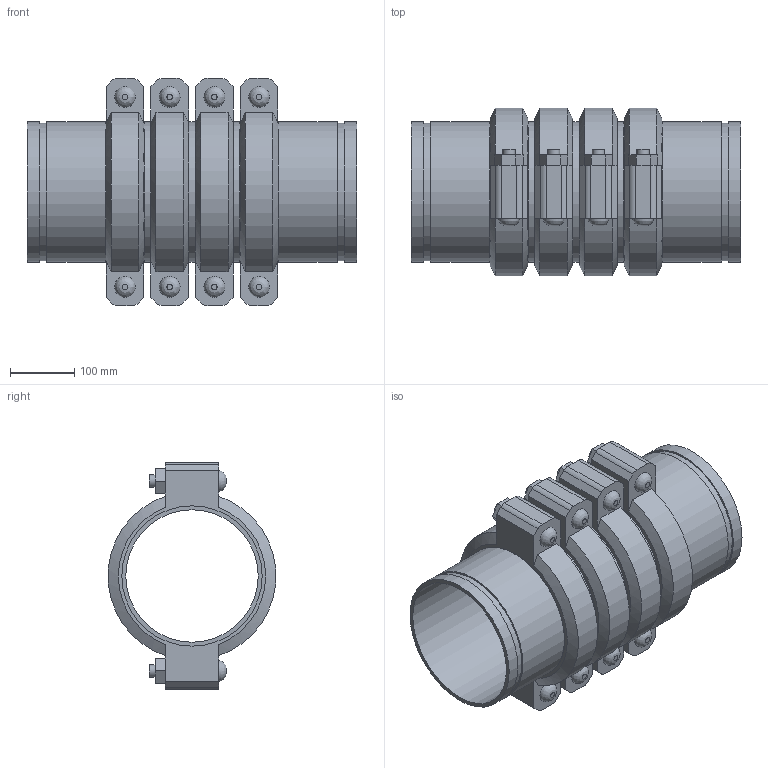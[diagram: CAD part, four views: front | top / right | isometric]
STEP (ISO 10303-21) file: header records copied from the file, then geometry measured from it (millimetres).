
FILE_DESCRIPTION(/* description */ ('VIC SS EXPANSION JOINT 4 COUPLINGS COMPRESSED STYLE 155P (OGS) (POTABLE WATER) ','CAx-IF Rec.Pracs.---Representation and Presentation of Product Manufacturing Information (PMI)---4.0---2014-10-13'),/* implementation_level */ '2;1');
FILE_NAME(/* name */ 'C:\Users\kkamble\AppData\Roaming\Autodesk\ApplicationPlugins\Victaulic.Temp\A932\Victaulic_SS_Expansion Joint_Compressed_4 Couplings_Style 155P (OGS)-Potable Water_4 Coup_Comp_8 (200).stp',/* time_stamp */ '2021-07-16T17:12:18+06:00',/* author */ ('kkamble'),/* organization */ ('Victaulic'),/* preprocessor_version */ 'ST-DEVELOPER v17.2',/* originating_system */ 'Autodesk Inventor 2019',/* authorisation */ '');
FILE_SCHEMA (('AP242_MANAGED_MODEL_BASED_3D_ENGINEERING_MIM_LF { 1 0 10303 442 1 1 4 }'));
Length unit declared in the file: inch
Products named in the file (4): 155P-08.0; Nipple-08.0; Nipple-08.0_1; 075-08.0
Assembly tree (9 placements, depth 2):
  155P-08.0
    Nipple-08.0  x2
    Nipple-08.0_1  x3
    075-08.0  x4
Bounding box: 514.35 x 261.72 x 354.84 mm (x, y, z)
Volume: 7430982.3 mm3; surface area: 1427674.8 mm2
Topology: 9 solids, 17 shells, 272 faces, 658 edges, 464 vertices
Faces by surface type: plane 166, cylinder 82, cone 16, bspline 8
Full cylindrical faces by diameter (mm): 19.05 x16, 21.209 x8, 206.985 x5, 214.401 x10, 219.075 x19
Entity records: 2673 total; most frequent: CARTESIAN_POINT 479, DIRECTION 443, ORIENTED_EDGE 374, EDGE_CURVE 187, AXIS2_PLACEMENT_3D 176, VERTEX_POINT 134, EDGE_LOOP 101, LINE 91
